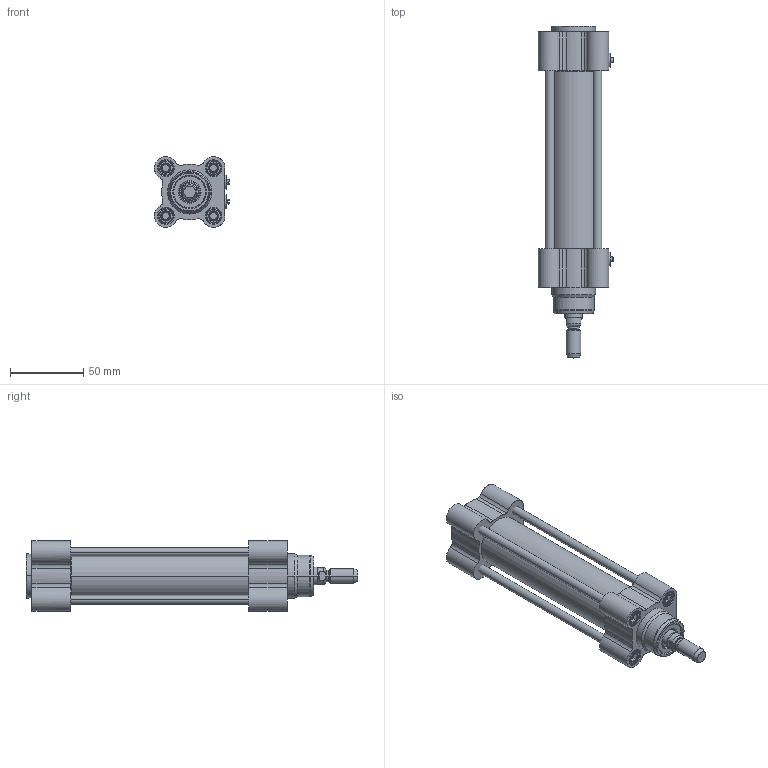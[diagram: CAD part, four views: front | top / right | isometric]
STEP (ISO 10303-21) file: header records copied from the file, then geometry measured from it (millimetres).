
FILE_DESCRIPTION (( 'STEP AP203' ), '1' );
FILE_NAME ('CTMI32-80.STEP', '2020-03-26T19:01:08', ( '' ), ( '' ), 'SwSTEP 2.0', 'SolidWorks 2019', '' );
FILE_SCHEMA (( 'CONFIG_CONTROL_DESIGN' ));
Length unit declared in the file: millimetre
Products named in the file (1): CTMI32-80
Bounding box: 51.2 x 226 x 48 mm (x, y, z)
Surface area: 82436.4 mm2 (no closed solid volume)
Topology: 0 solids, 27 shells, 706 faces, 1614 edges, 990 vertices
Faces by surface type: cylinder 207, cone 203, plane 192, torus 88, bspline 16
Entity records: 25729 total; most frequent: CARTESIAN_POINT 10948, ORIENTED_EDGE 3172, DIRECTION 2802, EDGE_CURVE 1614, AXIS2_PLACEMENT_3D 1166, VERTEX_POINT 990, EDGE_LOOP 776, FACE_OUTER_BOUND 706
